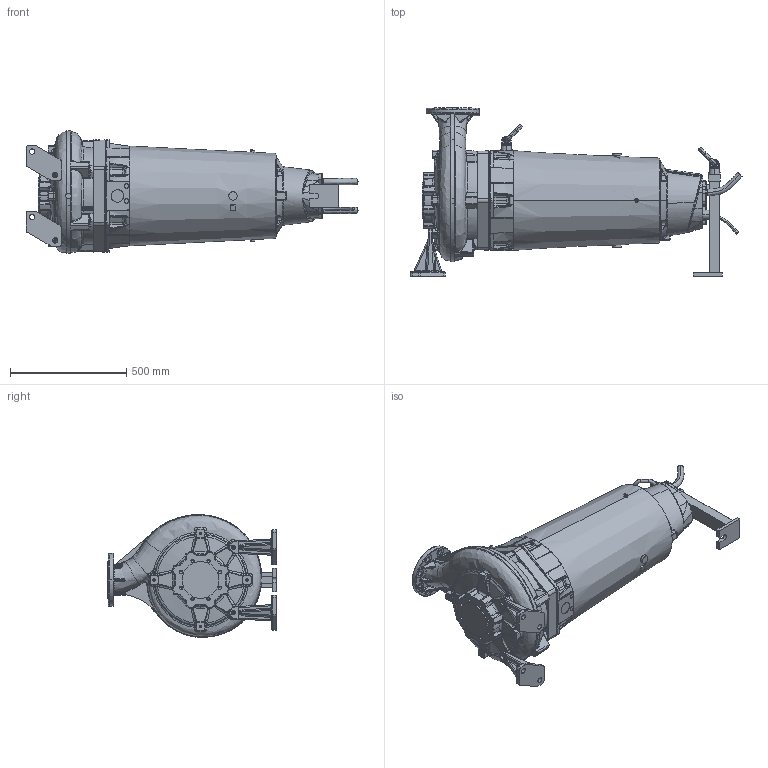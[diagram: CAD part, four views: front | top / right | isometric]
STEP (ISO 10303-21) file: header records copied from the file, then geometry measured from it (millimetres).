
FILE_DESCRIPTION (( 'STEP AP214' ), '1' );
FILE_NAME ('PE4_XFP100J-CH1_DRY HA_A_NG2.STEP', '2017-02-23T07:23:25', ( '' ), ( '' ), 'SwSTEP 2.0', 'SolidWorks 2017', '' );
FILE_SCHEMA (( 'AUTOMOTIVE_DESIGN' ));
Length unit declared in the file: millimetre
Products named in the file (1): PE4_XFP100J-CH1_DRY HA_A_NG2
Bounding box: 1430.38 x 726.42 x 529.04 mm (x, y, z)
Volume: 151589241.9 mm3; surface area: 2414250.8 mm2
Topology: 6 solids, 6 shells, 2219 faces, 5481 edges, 3250 vertices
Faces by surface type: bspline 754, cylinder 504, plane 463, cone 235, torus 185, sphere 78
Entity records: 155671 total; most frequent: CARTESIAN_POINT 85147, ORIENTED_EDGE 10830, DIRECTION 8248, EDGE_CURVE 5415, AXIS2_PLACEMENT_3D 3427, VERTEX_POINT 3246, EDGE_LOOP 2297, UNCERTAINTY_MEASURE_WITH_UNIT 2227
